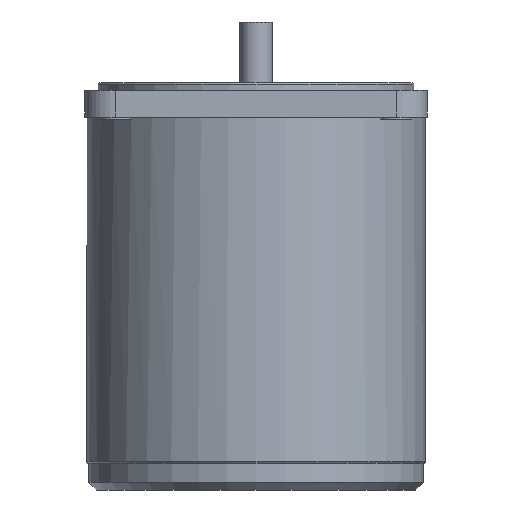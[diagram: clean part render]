
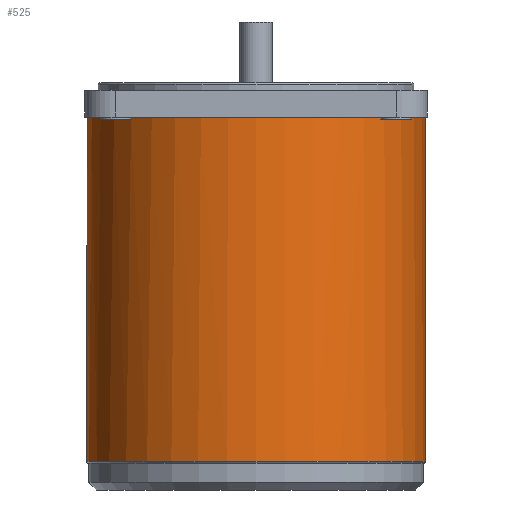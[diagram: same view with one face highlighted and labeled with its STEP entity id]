
A CAD part, left-side view. The second image highlights one B-rep face of the part: STEP entity #525.
In plain terms, the highlighted cylindrical face has radius 44.5 mm (diameter 89 mm), a full revolution.
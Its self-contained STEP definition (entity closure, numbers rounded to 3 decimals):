
#319=CARTESIAN_POINT('',(39.344,20.792,98.));
#320=VERTEX_POINT('',#319);
#328=CARTESIAN_POINT('',(42.523,13.118,98.));
#329=VERTEX_POINT('',#328);
#336=CARTESIAN_POINT('',(39.344,20.792,98.0));
#337=CARTESIAN_POINT('',(39.271,20.931,97.871));
#338=CARTESIAN_POINT('',(39.201,21.062,97.735));
#339=CARTESIAN_POINT('',(38.858,21.694,97.02));
#340=CARTESIAN_POINT('',(38.608,22.132,96.29));
#341=CARTESIAN_POINT('',(38.27,22.71,94.689));
#342=CARTESIAN_POINT('',(38.184,22.852,93.817));
#343=CARTESIAN_POINT('',(38.184,22.852,92.183));
#344=CARTESIAN_POINT('',(38.27,22.71,91.311));
#345=CARTESIAN_POINT('',(38.608,22.132,89.71));
#346=CARTESIAN_POINT('',(38.858,21.694,88.98));
#347=CARTESIAN_POINT('',(39.41,20.675,87.827));
#348=CARTESIAN_POINT('',(39.748,20.025,87.327));
#349=CARTESIAN_POINT('',(40.444,18.58,86.664));
#350=CARTESIAN_POINT('',(40.8,17.785,86.5));
#351=CARTESIAN_POINT('',(41.425,16.274,86.5));
#352=CARTESIAN_POINT('',(41.736,15.46,86.664));
#353=CARTESIAN_POINT('',(42.266,13.946,87.327));
#354=CARTESIAN_POINT('',(42.486,13.247,87.827));
#355=CARTESIAN_POINT('',(42.817,12.137,88.98));
#356=CARTESIAN_POINT('',(42.949,11.65,89.71));
#357=CARTESIAN_POINT('',(43.12,11.002,91.311));
#358=CARTESIAN_POINT('',(43.159,10.842,92.183));
#359=CARTESIAN_POINT('',(43.159,10.842,93.));
#360=CARTESIAN_POINT('',(43.159,10.842,93.817));
#361=CARTESIAN_POINT('',(43.12,11.002,94.689));
#362=CARTESIAN_POINT('',(42.949,11.65,96.29));
#363=CARTESIAN_POINT('',(42.817,12.137,97.02));
#364=CARTESIAN_POINT('',(42.612,12.826,97.735));
#365=CARTESIAN_POINT('',(42.569,12.968,97.871));
#366=CARTESIAN_POINT('',(42.523,13.118,98.0));
#367=B_SPLINE_CURVE_WITH_KNOTS('',3,(#336,#337,#338,#339,#340,#341,#342,#343,#344,#345,#346,#347,#348,#349,#350,#351,#352,#353,#354,#355,#356,#357,#358,#359,#360,#361,#362,#363,#364,#365,#366),.UNSPECIFIED.,.F.,.U.,(4,2,2,2,2,2,2,2,2,2,2,3,2,2,4),(-2.511,-2.452,-2.207,-1.962,-1.717,-1.471,-1.226,-0.981,-0.736,-0.49,-0.245,0.0,0.245,0.49,0.55),.UNSPECIFIED.);
#368=EDGE_CURVE('',#320,#329,#367,.T.);
#494=CARTESIAN_POINT('',(0.0,0.0,98.0));
#495=DIRECTION('',(0.0,0.0,1.0));
#496=DIRECTION('',(0.618,-0.786,0.0));
#497=AXIS2_PLACEMENT_3D('',#494,#495,#496);
#498=CIRCLE('',#497,44.5);
#499=EDGE_CURVE('',#320,#329,#498,.T.);
#505=CARTESIAN_POINT('',(0.0,0.0,0.0));
#506=DIRECTION('',(0.0,0.0,1.0));
#507=DIRECTION('',(-1.0,0.0,0.0));
#508=AXIS2_PLACEMENT_3D('',#505,#506,#507);
#509=CYLINDRICAL_SURFACE('',#508,44.5);
#510=CARTESIAN_POINT('',(-44.5,0.,7.5));
#511=VERTEX_POINT('',#510);
#512=CARTESIAN_POINT('',(0.0,0.0,7.5));
#513=DIRECTION('',(0.0,0.0,-1.0));
#514=DIRECTION('',(1.0,0.0,0.0));
#515=AXIS2_PLACEMENT_3D('',#512,#513,#514);
#516=CIRCLE('',#515,44.5);
#517=EDGE_CURVE('',#511,#511,#516,.T.);
#518=ORIENTED_EDGE('',*,*,#517,.F.);
#519=EDGE_LOOP('',(#518));
#520=FACE_OUTER_BOUND('',#519,.T.);
#521=ORIENTED_EDGE('',*,*,#368,.T.);
#522=ORIENTED_EDGE('',*,*,#499,.F.);
#523=EDGE_LOOP('',(#521,#522));
#524=FACE_BOUND('',#523,.T.);
#525=ADVANCED_FACE('',(#520,#524),#509,.T.);
